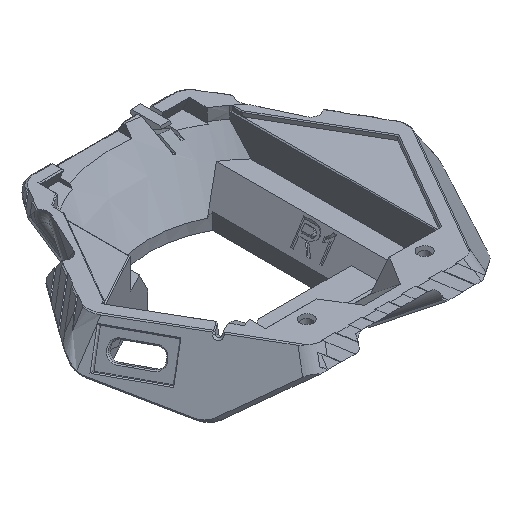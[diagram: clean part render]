
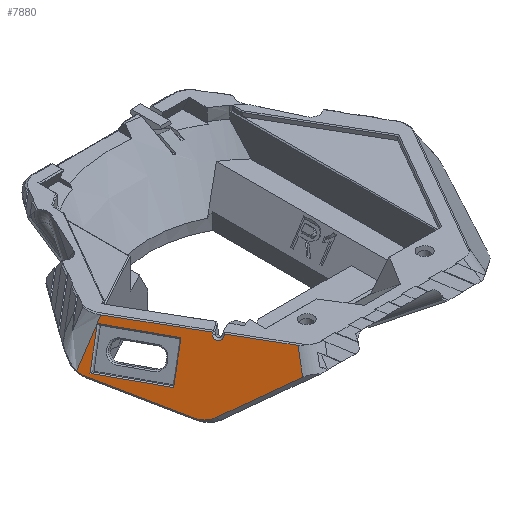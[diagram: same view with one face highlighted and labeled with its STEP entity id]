
A CAD part, isometric view. The second image highlights one B-rep face of the part: STEP entity #7880.
In plain terms, the highlighted planar face has unit normal (-0.75, -0.433, 0.5).
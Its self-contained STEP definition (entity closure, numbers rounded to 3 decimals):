
#102=CIRCLE('',#8352,0.933);
#193=ELLIPSE('',#8353,4.176,3.579);
#234=FACE_BOUND('',#947,.T.);
#353=B_SPLINE_CURVE_WITH_KNOTS('',3,(#12285,#12286,#12287,#12288,#12289,
#12290,#12291,#12292,#12293,#12294),.UNSPECIFIED.,.F.,.F.,(4,3,3,4),(0.,
0.438,0.877,1.),.UNSPECIFIED.);
#507=FACE_OUTER_BOUND('',#946,.T.);
#946=EDGE_LOOP('',(#5653,#5654,#5655,#5656,#5657,#5658,#5659,#5660,#5661,
#5662,#5663));
#947=EDGE_LOOP('',(#5664,#5665,#5666,#5667));
#1544=LINE('',#12238,#2460);
#1554=LINE('',#12264,#2470);
#1556=LINE('',#12270,#2472);
#1557=LINE('',#12272,#2473);
#1558=LINE('',#12276,#2474);
#1559=LINE('',#12278,#2475);
#1560=LINE('',#12280,#2476);
#1561=LINE('',#12284,#2477);
#1562=LINE('',#12297,#2478);
#1563=LINE('',#12299,#2479);
#1564=LINE('',#12301,#2480);
#1565=LINE('',#12302,#2481);
#2460=VECTOR('',#9232,10.);
#2470=VECTOR('',#9252,1000.);
#2472=VECTOR('',#9258,1000.);
#2473=VECTOR('',#9259,1000.);
#2474=VECTOR('',#9262,1000.);
#2475=VECTOR('',#9263,1000.);
#2476=VECTOR('',#9264,1000.);
#2477=VECTOR('',#9267,1000.);
#2478=VECTOR('',#9268,10.);
#2479=VECTOR('',#9269,10.);
#2480=VECTOR('',#9270,10.);
#2481=VECTOR('',#9271,10.);
#3401=VERTEX_POINT('',#12235);
#3402=VERTEX_POINT('',#12237);
#3413=VERTEX_POINT('',#12263);
#3415=VERTEX_POINT('',#12269);
#3416=VERTEX_POINT('',#12271);
#3417=VERTEX_POINT('',#12273);
#3418=VERTEX_POINT('',#12275);
#3419=VERTEX_POINT('',#12277);
#3420=VERTEX_POINT('',#12279);
#3421=VERTEX_POINT('',#12281);
#3422=VERTEX_POINT('',#12283);
#3423=VERTEX_POINT('',#12295);
#3424=VERTEX_POINT('',#12296);
#3425=VERTEX_POINT('',#12298);
#3426=VERTEX_POINT('',#12300);
#4250=EDGE_CURVE('',#3401,#3402,#1544,.T.);
#4263=EDGE_CURVE('',#3413,#3402,#1554,.T.);
#4266=EDGE_CURVE('',#3401,#3415,#1556,.T.);
#4267=EDGE_CURVE('',#3415,#3416,#1557,.T.);
#4268=EDGE_CURVE('',#3416,#3417,#102,.T.);
#4269=EDGE_CURVE('',#3417,#3418,#1558,.T.);
#4270=EDGE_CURVE('',#3418,#3419,#1559,.T.);
#4271=EDGE_CURVE('',#3419,#3420,#1560,.T.);
#4272=EDGE_CURVE('',#3420,#3421,#193,.T.);
#4273=EDGE_CURVE('',#3421,#3422,#1561,.T.);
#4274=EDGE_CURVE('',#3422,#3413,#353,.T.);
#4275=EDGE_CURVE('',#3423,#3424,#1562,.T.);
#4276=EDGE_CURVE('',#3425,#3423,#1563,.T.);
#4277=EDGE_CURVE('',#3426,#3425,#1564,.T.);
#4278=EDGE_CURVE('',#3424,#3426,#1565,.T.);
#5653=ORIENTED_EDGE('',*,*,#4250,.F.);
#5654=ORIENTED_EDGE('',*,*,#4266,.T.);
#5655=ORIENTED_EDGE('',*,*,#4267,.T.);
#5656=ORIENTED_EDGE('',*,*,#4268,.T.);
#5657=ORIENTED_EDGE('',*,*,#4269,.T.);
#5658=ORIENTED_EDGE('',*,*,#4270,.T.);
#5659=ORIENTED_EDGE('',*,*,#4271,.T.);
#5660=ORIENTED_EDGE('',*,*,#4272,.T.);
#5661=ORIENTED_EDGE('',*,*,#4273,.T.);
#5662=ORIENTED_EDGE('',*,*,#4274,.T.);
#5663=ORIENTED_EDGE('',*,*,#4263,.T.);
#5664=ORIENTED_EDGE('',*,*,#4275,.F.);
#5665=ORIENTED_EDGE('',*,*,#4276,.F.);
#5666=ORIENTED_EDGE('',*,*,#4277,.F.);
#5667=ORIENTED_EDGE('',*,*,#4278,.F.);
#7518=PLANE('',#8351);
#7880=ADVANCED_FACE('',(#507,#234),#7518,.F.);
#8351=AXIS2_PLACEMENT_3D('',#12268,#9256,#9257);
#8352=AXIS2_PLACEMENT_3D('',#12274,#9260,#9261);
#8353=AXIS2_PLACEMENT_3D('',#12282,#9265,#9266);
#9232=DIRECTION('',(-0.277,-0.48,-0.832));
#9252=DIRECTION('',(0.655,-0.592,0.47));
#9256=DIRECTION('center_axis',(0.75,0.433,-0.5));
#9257=DIRECTION('ref_axis',(0.657,-0.572,0.491));
#9258=DIRECTION('',(-0.5,0.866,0.));
#9259=DIRECTION('',(-0.528,-0.064,-0.847));
#9260=DIRECTION('center_axis',(0.75,0.433,-0.5));
#9261=DIRECTION('ref_axis',(0.655,-0.592,0.47));
#9262=DIRECTION('',(0.319,0.425,0.847));
#9263=DIRECTION('',(-0.5,0.866,0.));
#9264=DIRECTION('',(-0.555,0.,-0.832));
#9265=DIRECTION('center_axis',(-0.75,-0.433,0.5));
#9266=DIRECTION('ref_axis',(0.291,-0.895,-0.338));
#9267=DIRECTION('',(0.399,-0.899,-0.18));
#9268=DIRECTION('',(0.44,0.237,0.866));
#9269=DIRECTION('',(0.494,-0.869,-0.012));
#9270=DIRECTION('',(-0.44,-0.237,-0.866));
#9271=DIRECTION('',(-0.494,0.869,0.012));
#12235=CARTESIAN_POINT('',(-13.266,-27.352,22.511));
#12237=CARTESIAN_POINT('',(-14.657,-29.761,18.339));
#12238=CARTESIAN_POINT('',(-9.755,-21.271,33.044));
#12263=CARTESIAN_POINT('',(-24.579,-20.796,11.219));
#12264=CARTESIAN_POINT('',(-15.665,-28.849,17.615));
#12268=CARTESIAN_POINT('Origin',(-10.962,-6.844,43.728));
#12269=CARTESIAN_POINT('',(-19.178,-17.111,22.511));
#12270=CARTESIAN_POINT('',(-19.373,-16.774,22.511));
#12271=CARTESIAN_POINT('',(-19.418,-17.14,22.126));
#12272=CARTESIAN_POINT('',(-19.418,-17.14,22.126));
#12273=CARTESIAN_POINT('',(-20.331,-15.56,22.126));
#12274=CARTESIAN_POINT('Origin',(-19.79,-16.302,22.295));
#12275=CARTESIAN_POINT('',(-20.186,-15.367,22.511));
#12276=CARTESIAN_POINT('',(-12.35,-4.94,43.296));
#12277=CARTESIAN_POINT('',(-29.148,0.156,22.511));
#12278=CARTESIAN_POINT('',(-29.112,0.093,22.511));
#12279=CARTESIAN_POINT('',(-34.461,0.156,14.542));
#12280=CARTESIAN_POINT('',(-15.003,0.156,43.728));
#12281=CARTESIAN_POINT('',(-33.93,-1.463,13.936));
#12282=CARTESIAN_POINT('Origin',(-32.126,-1.015,17.031));
#12283=CARTESIAN_POINT('',(-26.667,-17.838,10.649));
#12284=CARTESIAN_POINT('',(-26.653,-17.869,10.643));
#12285=CARTESIAN_POINT('Ctrl Pts',(-26.667,-17.838,
10.649));
#12286=CARTESIAN_POINT('Ctrl Pts',(-26.448,-18.334,
10.548));
#12287=CARTESIAN_POINT('Ctrl Pts',(-26.178,-18.822,
10.531));
#12288=CARTESIAN_POINT('Ctrl Pts',(-25.874,-19.275,10.594));
#12289=CARTESIAN_POINT('Ctrl Pts',(-25.57,-19.729,10.657));
#12290=CARTESIAN_POINT('Ctrl Pts',(-25.232,-20.149,
10.8));
#12291=CARTESIAN_POINT('Ctrl Pts',(-24.88,-20.508,
11.018));
#12292=CARTESIAN_POINT('Ctrl Pts',(-24.781,-20.609,
11.079));
#12293=CARTESIAN_POINT('Ctrl Pts',(-24.68,-20.705,
11.146));
#12294=CARTESIAN_POINT('Ctrl Pts',(-24.579,-20.796,
11.219));
#12295=CARTESIAN_POINT('',(-26.763,-13.474,14.284));
#12296=CARTESIAN_POINT('',(-23.284,-11.597,21.128));
#12297=CARTESIAN_POINT('',(-17.854,-8.667,31.811));
#12298=CARTESIAN_POINT('',(-33.435,-1.734,14.444));
#12299=CARTESIAN_POINT('',(-26.57,-13.813,14.28));
#12300=CARTESIAN_POINT('',(-29.956,0.143,21.288));
#12301=CARTESIAN_POINT('',(-25.612,2.486,29.834));
#12302=CARTESIAN_POINT('',(-26.004,-6.81,21.193));
